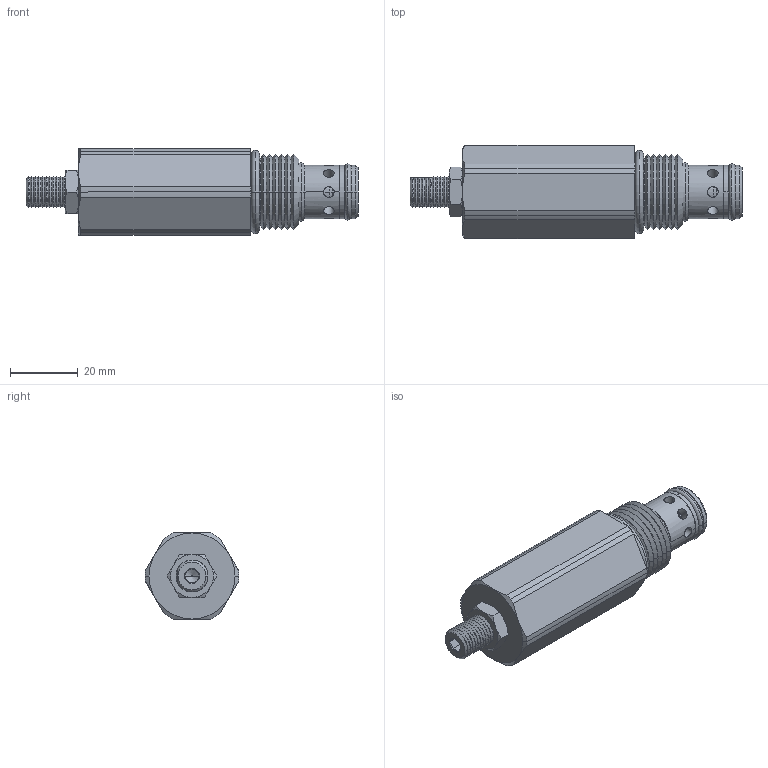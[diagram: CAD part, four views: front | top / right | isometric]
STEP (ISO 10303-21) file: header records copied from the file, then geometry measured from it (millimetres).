
FILE_DESCRIPTION((''),'2;1');
FILE_NAME('U:\Solid model CD\Solid model full\Mechanical\STEP\DERWP00-3D Full.stp','2008-07-29T09:03:03',('Dan'),(''),'Autodesk Inventor 9','Autodesk Inventor 9','');
FILE_SCHEMA(('AUTOMOTIVE_DESIGN { 1 0 10303 214 1 1 1 1 }'));
Length unit declared in the file: inch
Products named in the file (5): DERWP00-3D Full; DERWP00-3D Full1; DERWP00-3D Full2; DERWP00-3D Full3; DERWP00-3D Full4
Assembly tree (4 placements, depth 2):
  DERWP00-3D Full
    DERWP00-3D Full1
    DERWP00-3D Full2
    DERWP00-3D Full3
    DERWP00-3D Full4
Bounding box: 97.99 x 27.69 x 25.4 mm (x, y, z)
Volume: 37118.3 mm3; surface area: 10159.5 mm2
Topology: 4 solids, 4 shells, 227 faces, 523 edges, 313 vertices
Faces by surface type: cone 108, cylinder 60, plane 45, bspline 10, torus 4
Entity records: 7161 total; most frequent: CARTESIAN_POINT 2018, DIRECTION 1087, ORIENTED_EDGE 1046, EDGE_CURVE 523, AXIS2_PLACEMENT_3D 454, VERTEX_POINT 313, EDGE_LOOP 258, CIRCLE 228
